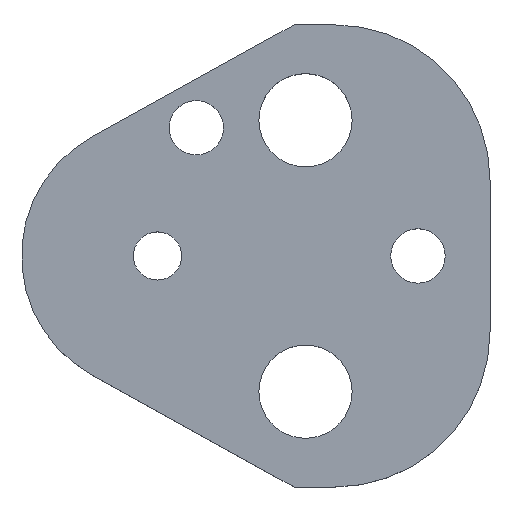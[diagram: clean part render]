
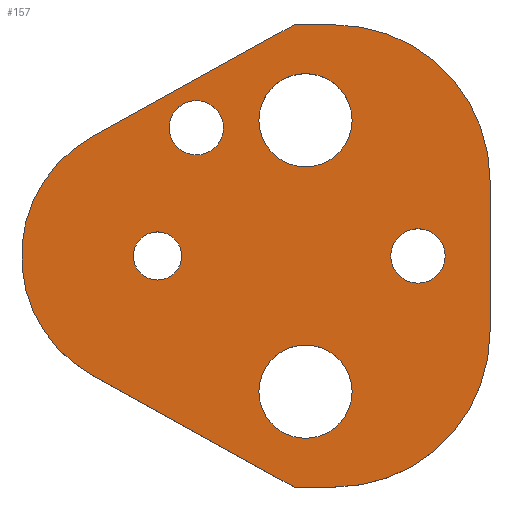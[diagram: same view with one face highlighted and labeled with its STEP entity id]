
A CAD part, top view. The second image highlights one B-rep face of the part: STEP entity #157.
In plain terms, the highlighted planar face has unit normal (0, 0, 1).
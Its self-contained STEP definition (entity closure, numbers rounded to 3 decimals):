
#103=FACE_BOUND('',#207,.T.);
#104=FACE_BOUND('',#208,.T.);
#105=FACE_BOUND('',#209,.T.);
#106=FACE_BOUND('',#210,.T.);
#107=FACE_BOUND('',#211,.T.);
#108=FACE_BOUND('',#212,.T.);
#122=CIRCLE('',#480,20.);
#124=CIRCLE('',#484,20.);
#127=CIRCLE('',#490,17.5);
#138=CIRCLE('',#503,6.);
#139=CIRCLE('',#504,6.);
#140=CIRCLE('',#505,3.5);
#141=CIRCLE('',#506,3.5);
#142=CIRCLE('',#507,6.);
#143=CIRCLE('',#508,6.);
#144=CIRCLE('',#509,3.5);
#145=CIRCLE('',#510,3.5);
#146=CIRCLE('',#511,3.1);
#147=CIRCLE('',#512,3.1);
#157=ADVANCED_FACE('',(#103,#104,#105,#106,#107,#108),#174,.T.);
#174=PLANE('',#513);
#207=EDGE_LOOP('',(#273,#274,#275,#276,#277,#278,#279,#280));
#208=EDGE_LOOP('',(#281,#282));
#209=EDGE_LOOP('',(#283,#284));
#210=EDGE_LOOP('',(#285,#286));
#211=EDGE_LOOP('',(#287,#288));
#212=EDGE_LOOP('',(#289,#290));
#273=ORIENTED_EDGE('',*,*,#368,.T.);
#274=ORIENTED_EDGE('',*,*,#372,.T.);
#275=ORIENTED_EDGE('',*,*,#375,.T.);
#276=ORIENTED_EDGE('',*,*,#378,.T.);
#277=ORIENTED_EDGE('',*,*,#381,.T.);
#278=ORIENTED_EDGE('',*,*,#384,.T.);
#279=ORIENTED_EDGE('',*,*,#387,.T.);
#280=ORIENTED_EDGE('',*,*,#390,.T.);
#281=ORIENTED_EDGE('',*,*,#401,.T.);
#282=ORIENTED_EDGE('',*,*,#402,.T.);
#283=ORIENTED_EDGE('',*,*,#403,.T.);
#284=ORIENTED_EDGE('',*,*,#404,.T.);
#285=ORIENTED_EDGE('',*,*,#405,.T.);
#286=ORIENTED_EDGE('',*,*,#406,.T.);
#287=ORIENTED_EDGE('',*,*,#407,.T.);
#288=ORIENTED_EDGE('',*,*,#408,.T.);
#289=ORIENTED_EDGE('',*,*,#409,.T.);
#290=ORIENTED_EDGE('',*,*,#410,.T.);
#332=VERTEX_POINT('',#649);
#333=VERTEX_POINT('',#651);
#336=VERTEX_POINT('',#658);
#338=VERTEX_POINT('',#664);
#340=VERTEX_POINT('',#670);
#342=VERTEX_POINT('',#676);
#344=VERTEX_POINT('',#682);
#346=VERTEX_POINT('',#688);
#357=VERTEX_POINT('',#717);
#358=VERTEX_POINT('',#718);
#359=VERTEX_POINT('',#721);
#360=VERTEX_POINT('',#722);
#361=VERTEX_POINT('',#725);
#362=VERTEX_POINT('',#726);
#363=VERTEX_POINT('',#729);
#364=VERTEX_POINT('',#730);
#365=VERTEX_POINT('',#733);
#366=VERTEX_POINT('',#734);
#368=EDGE_CURVE('',#333,#332,#422,.T.);
#372=EDGE_CURVE('',#332,#336,#426,.T.);
#375=EDGE_CURVE('',#336,#338,#122,.T.);
#378=EDGE_CURVE('',#338,#340,#430,.T.);
#381=EDGE_CURVE('',#340,#342,#124,.T.);
#384=EDGE_CURVE('',#342,#344,#434,.T.);
#387=EDGE_CURVE('',#344,#346,#437,.T.);
#390=EDGE_CURVE('',#346,#333,#127,.T.);
#401=EDGE_CURVE('',#357,#358,#138,.T.);
#402=EDGE_CURVE('',#358,#357,#139,.T.);
#403=EDGE_CURVE('',#359,#360,#140,.T.);
#404=EDGE_CURVE('',#360,#359,#141,.T.);
#405=EDGE_CURVE('',#361,#362,#142,.T.);
#406=EDGE_CURVE('',#362,#361,#143,.T.);
#407=EDGE_CURVE('',#363,#364,#144,.T.);
#408=EDGE_CURVE('',#364,#363,#145,.T.);
#409=EDGE_CURVE('',#365,#366,#146,.T.);
#410=EDGE_CURVE('',#366,#365,#147,.T.);
#422=LINE('',#650,#450);
#426=LINE('',#659,#454);
#430=LINE('',#671,#458);
#434=LINE('',#683,#462);
#437=LINE('',#689,#465);
#450=VECTOR('',#527,1.);
#454=VECTOR('',#533,1.);
#458=VECTOR('',#545,1.);
#462=VECTOR('',#557,1.);
#465=VECTOR('',#562,1.);
#480=AXIS2_PLACEMENT_3D('',#665,#538,#539);
#484=AXIS2_PLACEMENT_3D('',#677,#550,#551);
#490=AXIS2_PLACEMENT_3D('',#693,#568,#569);
#503=AXIS2_PLACEMENT_3D('',#716,#594,#595);
#504=AXIS2_PLACEMENT_3D('',#719,#596,#597);
#505=AXIS2_PLACEMENT_3D('',#720,#598,#599);
#506=AXIS2_PLACEMENT_3D('',#723,#600,#601);
#507=AXIS2_PLACEMENT_3D('',#724,#602,#603);
#508=AXIS2_PLACEMENT_3D('',#727,#604,#605);
#509=AXIS2_PLACEMENT_3D('',#728,#606,#607);
#510=AXIS2_PLACEMENT_3D('',#731,#608,#609);
#511=AXIS2_PLACEMENT_3D('',#732,#610,#611);
#512=AXIS2_PLACEMENT_3D('',#735,#612,#613);
#513=AXIS2_PLACEMENT_3D('',#736,#614,#615);
#527=DIRECTION('',(0.875,-0.485,0.));
#533=DIRECTION('',(1.,0.,0.));
#538=DIRECTION('',(0.,0.,1.));
#539=DIRECTION('',(-0.707,0.707,0.));
#545=DIRECTION('',(0.,1.,0.));
#550=DIRECTION('',(0.,0.,1.));
#551=DIRECTION('',(-0.707,-0.707,0.));
#557=DIRECTION('',(-1.,0.,0.));
#562=DIRECTION('',(-0.875,-0.485,0.));
#568=DIRECTION('',(0.,0.,1.));
#569=DIRECTION('',(1.,0.,0.));
#594=DIRECTION('',(0.,0.,-1.));
#595=DIRECTION('',(-1.,0.,0.));
#596=DIRECTION('',(0.,0.,-1.));
#597=DIRECTION('',(1.,0.,0.));
#598=DIRECTION('',(0.,0.,-1.));
#599=DIRECTION('',(-1.,0.,0.));
#600=DIRECTION('',(0.,0.,-1.));
#601=DIRECTION('',(1.,0.,0.));
#602=DIRECTION('',(0.,0.,-1.));
#603=DIRECTION('',(-1.,0.,0.));
#604=DIRECTION('',(0.,0.,-1.));
#605=DIRECTION('',(1.,0.,0.));
#606=DIRECTION('',(0.,0.,-1.));
#607=DIRECTION('',(-1.,0.,0.));
#608=DIRECTION('',(0.,0.,-1.));
#609=DIRECTION('',(1.,0.,0.));
#610=DIRECTION('',(0.,0.,-1.));
#611=DIRECTION('',(-1.,0.,0.));
#612=DIRECTION('',(0.,0.,-1.));
#613=DIRECTION('',(1.,0.,0.));
#614=DIRECTION('',(0.,0.,1.));
#615=DIRECTION('',(-0.875,0.485,0.));
#649=CARTESIAN_POINT('',(17.574,-29.75,5.));
#650=CARTESIAN_POINT('',(17.574,-29.75,5.));
#651=CARTESIAN_POINT('',(-8.484,-15.306,5.));
#658=CARTESIAN_POINT('',(22.8,-29.75,5.));
#659=CARTESIAN_POINT('',(17.574,-29.75,5.));
#664=CARTESIAN_POINT('',(42.8,-9.75,5.));
#665=CARTESIAN_POINT('',(22.8,-9.75,5.));
#670=CARTESIAN_POINT('',(42.8,9.75,5.));
#671=CARTESIAN_POINT('',(42.8,9.75,5.));
#676=CARTESIAN_POINT('',(22.8,29.75,5.));
#677=CARTESIAN_POINT('',(22.8,9.75,5.));
#682=CARTESIAN_POINT('',(17.574,29.75,5.));
#683=CARTESIAN_POINT('',(17.574,29.75,5.));
#688=CARTESIAN_POINT('',(-8.484,15.306,5.));
#689=CARTESIAN_POINT('',(17.574,29.75,5.));
#693=CARTESIAN_POINT('',(0.,0.,5.));
#716=CARTESIAN_POINT('',(19.05,-17.47,5.));
#717=CARTESIAN_POINT('',(19.05,-11.47,5.));
#718=CARTESIAN_POINT('',(19.05,-23.47,5.));
#719=CARTESIAN_POINT('',(19.05,-17.47,5.));
#720=CARTESIAN_POINT('',(33.53,0.,5.));
#721=CARTESIAN_POINT('',(33.53,3.5,5.));
#722=CARTESIAN_POINT('',(33.53,-3.5,5.));
#723=CARTESIAN_POINT('',(33.53,0.,5.));
#724=CARTESIAN_POINT('',(19.05,17.47,5.));
#725=CARTESIAN_POINT('',(19.05,23.47,5.));
#726=CARTESIAN_POINT('',(19.05,11.47,5.));
#727=CARTESIAN_POINT('',(19.05,17.47,5.));
#728=CARTESIAN_POINT('',(5.,16.5,5.));
#729=CARTESIAN_POINT('',(5.,20.,5.));
#730=CARTESIAN_POINT('',(5.,13.,5.));
#731=CARTESIAN_POINT('',(5.,16.5,5.));
#732=CARTESIAN_POINT('',(0.,0.,5.));
#733=CARTESIAN_POINT('',(0.,3.1,5.));
#734=CARTESIAN_POINT('',(0.,-3.1,5.));
#735=CARTESIAN_POINT('',(0.,0.,5.));
#736=CARTESIAN_POINT('',(-8.484,-15.306,5.));
